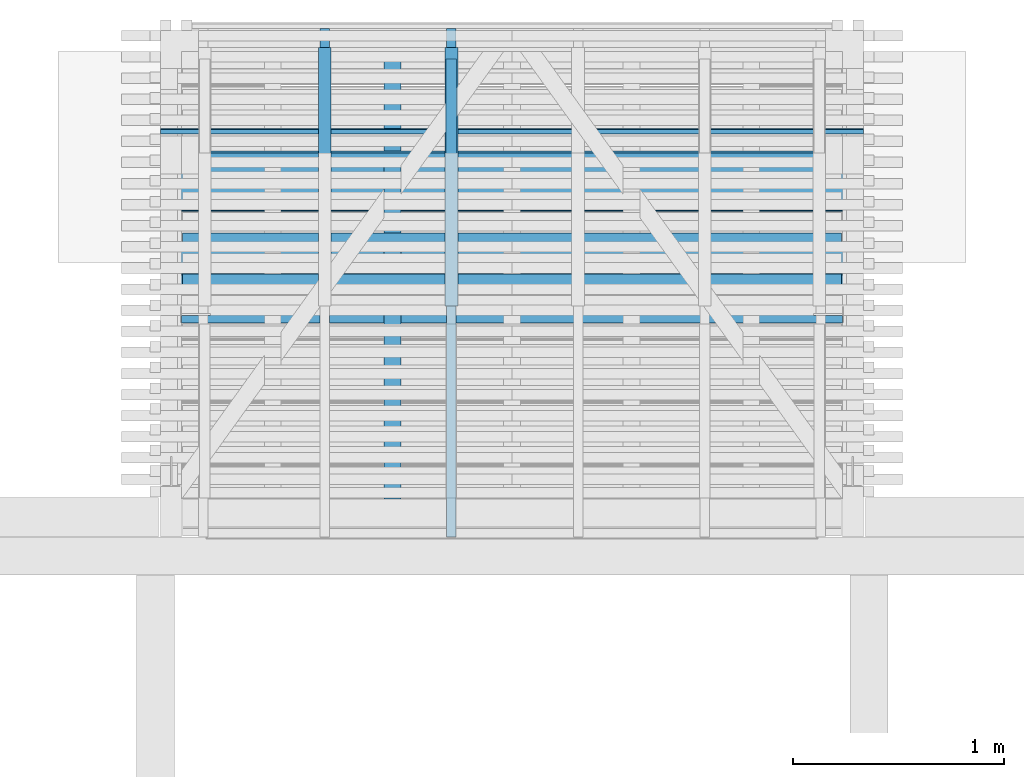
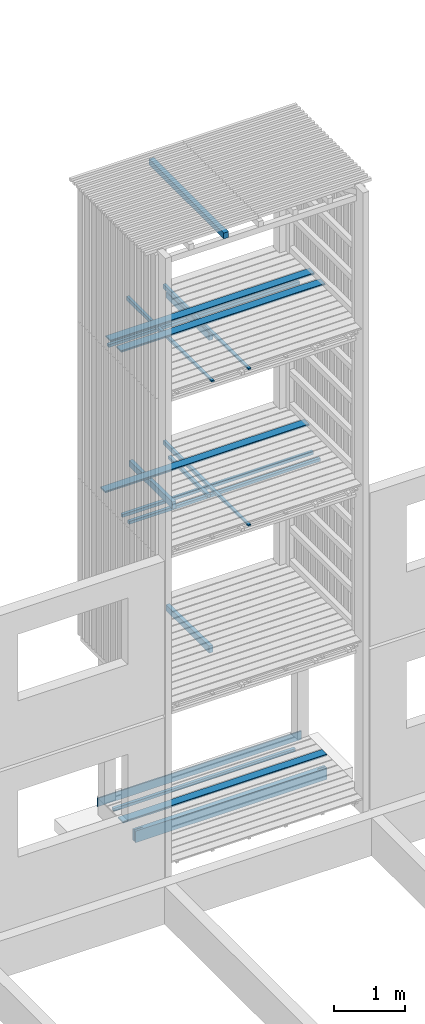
# One storey, part 21 of 182: 18 beams.
"""IFC2X3 building model written with IfcOpenShell, lengths in metres."""

from ifc_helpers import new_model, si_unit, frame, origin, place, context, project, spatial, faceted_brep, element, save


model = new_model("IFC2X3")

# Units and contexts
model_context = context("Model", 3, precision=1e-06, world=origin())
ifc_project = project(units=[si_unit("LENGTHUNIT", "METRE"), si_unit("PLANEANGLEUNIT", "RADIAN")], contexts=[model_context])

# Site, building, storey
site = spatial("IfcSite", under=ifc_project, CompositionType="ELEMENT")
building = spatial("IfcBuilding", under=site, CompositionType="ELEMENT")
storey = spatial("IfcBuildingStorey", under=building, Name="vs", CompositionType="ELEMENT", Elevation=-0.85)

# Beams
placement = place(None, origin())
beam_1_placement = place(placement, frame((4.692197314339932, 11.565077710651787, 8.00424999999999), z_axis=(0.0, 0.0, 1.0), x_axis=(0.0, 1.0, 0.0)))
element("IfcBeam", 1, at=beam_1_placement, inside=storey, Name="Solive", context=model_context, shape_type="Brep", body=[
    faceted_brep([(0.0, -0.029999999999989, -0.061849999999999), (1.225000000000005, -0.029999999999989, -0.061849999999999), (1.225000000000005, -0.029999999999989, 0.037349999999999), (0.0, -0.029999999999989, 0.061849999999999), (0.0, 0.029999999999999, -0.061849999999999), (1.225000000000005, 0.029999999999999, -0.061849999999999), (1.225000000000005, -0.029999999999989, -0.061849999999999), (0.0, -0.029999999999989, -0.061849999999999), (0.0, 0.029999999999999, 0.061850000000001), (0.0, 0.029999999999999, -0.061849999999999), (0.0, -0.029999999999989, -0.061849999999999), (0.0, -0.029999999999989, 0.061849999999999), (1.225000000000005, 0.029999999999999, -0.061849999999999), (0.0, 0.029999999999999, -0.061849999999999), (0.0, 0.029999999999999, 0.061850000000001), (1.225000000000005, 0.029999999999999, 0.037349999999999), (1.225000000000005, -0.029999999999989, 0.037349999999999), (1.225000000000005, -0.029999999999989, -0.061849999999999), (1.225000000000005, 0.029999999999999, -0.061849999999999), (1.225000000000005, 0.029999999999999, 0.037349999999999), (0.0, -0.029999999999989, 0.061849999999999), (1.225000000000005, -0.029999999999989, 0.037349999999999), (1.225000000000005, 0.029999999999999, 0.037349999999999), (0.0, 0.029999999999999, 0.061850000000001)], [[[0, 1, 2, 3]], [[4, 5, 6, 7]], [[8, 9, 10, 11]], [[12, 13, 14, 15]], [[16, 17, 18, 19]], [[20, 21, 22, 23]]]),
])
beam_2_placement = place(placement, frame((4.412530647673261, 10.650077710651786, 10.404999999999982), z_axis=(0.0, 0.0, 1.0), x_axis=(0.0, 1.0, 0.0)))
element("IfcBeam", 2, at=beam_2_placement, inside=storey, Name="Support bardage", context=model_context, shape_type="Brep", body=[
    faceted_brep([(2.120000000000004, -0.040000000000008, 0.050000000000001), (2.120000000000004, 0.03999999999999, 0.050000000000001), (3e-15, 0.03999999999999, 0.050000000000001), (3e-15, -0.040000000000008, 0.050000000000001), (3e-15, 0.03999999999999, 0.050000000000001), (2.120000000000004, 0.03999999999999, 0.050000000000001), (2.120000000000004, 0.03999999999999, -0.050000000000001), (3e-15, 0.03999999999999, -0.050000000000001), (2.120000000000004, 0.03999999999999, 0.050000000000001), (2.120000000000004, -0.040000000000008, 0.050000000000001), (2.120000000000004, -0.040000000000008, -0.050000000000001), (2.120000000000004, 0.03999999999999, -0.050000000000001), (2.120000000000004, -0.040000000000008, -0.050000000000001), (2.120000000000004, -0.040000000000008, 0.050000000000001), (3e-15, -0.040000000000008, 0.050000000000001), (3e-15, -0.040000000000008, -0.050000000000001), (3e-15, 0.03999999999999, -0.050000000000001), (2.120000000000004, 0.03999999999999, -0.050000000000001), (2.120000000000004, -0.040000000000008, -0.050000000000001), (3e-15, -0.040000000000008, -0.050000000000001), (3e-15, 0.03999999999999, 0.050000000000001), (3e-15, 0.03999999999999, -0.050000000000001), (3e-15, -0.040000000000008, -0.050000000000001), (3e-15, -0.040000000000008, 0.050000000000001)], [[[0, 1, 2, 3]], [[4, 5, 6, 7]], [[8, 9, 10, 11]], [[12, 13, 14, 15]], [[16, 17, 18, 19]], [[20, 21, 22, 23]]]),
])
beam_3_placement = place(placement, frame((4.692197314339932, 10.470077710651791, 5.384400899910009), z_axis=(0.0, 0.0, 1.0), x_axis=(0.0, 1.0, 0.0)))
element("IfcBeam", 3, at=beam_3_placement, inside=storey, Name="Calage", context=model_context, shape_type="Brep", body=[
    faceted_brep([(2.410000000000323, -0.022499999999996, -0.035599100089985), (0.0, -0.022499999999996, 0.012600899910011), (0.0, 0.022500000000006, 0.012600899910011), (2.410000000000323, 0.022500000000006, -0.035599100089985), (0.0, 0.022500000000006, 0.035599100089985), (0.0, 0.022500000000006, 0.012600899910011), (0.0, -0.022499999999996, 0.012600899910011), (0.0, -0.022499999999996, 0.035599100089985), (2.410000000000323, 0.022500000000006, -0.035599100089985), (0.0, 0.022500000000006, 0.012600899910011), (0.0, 0.022500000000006, 0.035599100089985), (2.410000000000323, 0.022500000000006, 0.035599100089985), (2.410000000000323, -0.022499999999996, 0.035599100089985), (0.0, -0.022499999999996, 0.035599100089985), (0.0, -0.022499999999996, 0.012600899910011), (2.410000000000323, -0.022499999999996, -0.035599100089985), (2.410000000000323, 0.022500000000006, 0.035599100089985), (0.0, 0.022500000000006, 0.035599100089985), (0.0, -0.022499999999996, 0.035599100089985), (2.410000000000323, -0.022499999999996, 0.035599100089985), (2.410000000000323, 0.022500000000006, -0.035599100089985), (2.410000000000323, 0.022500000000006, 0.035599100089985), (2.410000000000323, -0.022499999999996, 0.035599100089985), (2.410000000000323, -0.022499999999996, -0.035599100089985)], [[[0, 1, 2, 3]], [[4, 5, 6, 7]], [[8, 9, 10, 11]], [[12, 13, 14, 15]], [[16, 17, 18, 19]], [[20, 21, 22, 23]]]),
])
beam_4_placement = place(placement, frame((6.539197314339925, 11.692161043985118, 5.167399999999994), z_axis=(0.0, 0.0, 1.0), x_axis=(-1.0, 0.0, 0.0)))
element("IfcBeam", 4, at=beam_4_placement, inside=storey, Name="Bardage", context=model_context, shape_type="Brep", body=[
    faceted_brep([(3.120000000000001, 0.024999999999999, -0.025), (3.120000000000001, 0.024999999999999, 0.025), (3.120000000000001, -0.024999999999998, 0.025), (3.120000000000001, -0.024999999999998, -0.025), (-3e-15, -0.025000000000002, -0.025), (-3e-15, -0.025000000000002, 0.025), (-3e-15, 0.024999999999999, 0.025), (-3e-15, 0.024999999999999, -0.025), (-3e-15, 0.024999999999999, -0.025), (-3e-15, 0.024999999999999, 0.025), (3.120000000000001, 0.024999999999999, 0.025), (3.120000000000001, 0.024999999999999, -0.025), (-3e-15, 0.024999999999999, 0.025), (-3e-15, -0.025000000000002, 0.025), (3.120000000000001, -0.024999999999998, 0.025), (3.120000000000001, 0.024999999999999, 0.025), (-3e-15, -0.025000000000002, 0.025), (-3e-15, -0.025000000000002, -0.025), (3.120000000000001, -0.024999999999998, -0.025), (3.120000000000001, -0.024999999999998, 0.025), (-3e-15, -0.025000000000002, -0.025), (-3e-15, 0.024999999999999, -0.025), (3.120000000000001, 0.024999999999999, -0.025), (3.120000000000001, -0.024999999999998, -0.025)], [[[0, 1, 2, 3]], [[4, 5, 6, 7]], [[8, 9, 10, 11]], [[12, 13, 14, 15]], [[16, 17, 18, 19]], [[20, 21, 22, 23]]]),
])
beam_5_placement = place(placement, frame((6.644197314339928, 12.234577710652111, 5.433499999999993), z_axis=(0.0, 0.0, 1.0), x_axis=(-1.0, 0.0, 0.0)))
element("IfcBeam", 5, at=beam_5_placement, inside=storey, Name="Caillebotis", context=model_context, shape_type="Brep", body=[
    faceted_brep([(3.329999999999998, -0.072499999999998, -0.0135), (3.329999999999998, 0.072499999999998, -0.0135), (3.329999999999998, 0.072499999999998, 0.0085), (3.329999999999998, 0.067500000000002, 0.0135), (3.329999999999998, -0.067500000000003, 0.0135), (3.329999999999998, -0.072499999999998, 0.008500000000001), (0.0, -0.072500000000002, 0.008500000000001), (0.0, -0.067500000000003, 0.0135), (0.0, 0.067499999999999, 0.0135), (0.0, 0.072499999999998, 0.0085), (0.0, 0.072499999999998, -0.0135), (0.0, -0.072500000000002, -0.0135), (3.329999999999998, 0.072499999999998, 0.0085), (3.329999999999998, 0.072499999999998, -0.0135), (0.0, 0.072499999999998, -0.0135), (0.0, 0.072499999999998, 0.0085), (3.329999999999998, 0.067500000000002, 0.0135), (3.329999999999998, 0.072499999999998, 0.0085), (0.0, 0.072499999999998, 0.0085), (0.0, 0.067499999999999, 0.0135), (3.329999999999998, -0.067500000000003, 0.0135), (3.329999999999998, 0.067500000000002, 0.0135), (0.0, 0.067499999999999, 0.0135), (0.0, -0.067500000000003, 0.0135), (3.329999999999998, -0.072499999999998, 0.008500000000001), (3.329999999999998, -0.067500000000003, 0.0135), (0.0, -0.067500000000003, 0.0135), (0.0, -0.072500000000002, 0.008500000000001), (3.329999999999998, -0.072499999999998, -0.0135), (3.329999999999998, -0.072499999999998, 0.008500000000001), (0.0, -0.072500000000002, 0.008500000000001), (0.0, -0.072500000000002, -0.0135), (0.0, 0.072499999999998, -0.0135), (3.329999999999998, 0.072499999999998, -0.0135), (3.329999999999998, -0.072499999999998, -0.0135), (0.0, -0.072500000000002, -0.0135)], [[[0, 1, 2, 3, 4, 5]], [[6, 7, 8, 9, 10, 11]], [[12, 13, 14, 15]], [[16, 17, 18, 19]], [[20, 21, 22, 23]], [[24, 25, 26, 27]], [[28, 29, 30, 31]], [[32, 33, 34, 35]]]),
])
beam_6_placement = place(placement, frame((6.644197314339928, 11.784577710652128, 8.13349999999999), z_axis=(0.0, 0.0, 1.0), x_axis=(-1.0, -8e-15, 0.0)))
element("IfcBeam", 6, at=beam_6_placement, inside=storey, Name="Caillebotis", context=model_context, shape_type="Brep", body=[
    faceted_brep([(3.329999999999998, -0.072500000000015, -0.013500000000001), (3.329999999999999, 0.072499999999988, -0.013500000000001), (3.329999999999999, 0.072499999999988, 0.008499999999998), (3.329999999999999, 0.067499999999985, 0.013499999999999), (3.329999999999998, -0.067500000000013, 0.013499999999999), (3.329999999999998, -0.072500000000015, 0.0085), (-1e-15, -0.072499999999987, 0.0085), (-1e-15, -0.067499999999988, 0.013499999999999), (1e-15, 0.067500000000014, 0.013499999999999), (1e-15, 0.072500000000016, 0.008499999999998), (1e-15, 0.072500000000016, -0.013500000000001), (-1e-15, -0.072499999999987, -0.013500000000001), (3.329999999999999, 0.072499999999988, 0.008499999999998), (3.329999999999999, 0.072499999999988, -0.013500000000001), (1e-15, 0.072500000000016, -0.013500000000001), (1e-15, 0.072500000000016, 0.008499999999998), (3.329999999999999, 0.067499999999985, 0.013499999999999), (3.329999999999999, 0.072499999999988, 0.008499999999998), (1e-15, 0.072500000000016, 0.008499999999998), (1e-15, 0.067500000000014, 0.013499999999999), (3.329999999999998, -0.067500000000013, 0.013499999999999), (3.329999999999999, 0.067499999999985, 0.013499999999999), (1e-15, 0.067500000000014, 0.013499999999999), (-1e-15, -0.067499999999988, 0.013499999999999), (3.329999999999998, -0.072500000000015, 0.0085), (3.329999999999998, -0.067500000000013, 0.013499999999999), (-1e-15, -0.067499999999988, 0.013499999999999), (-1e-15, -0.072499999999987, 0.0085), (3.329999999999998, -0.072500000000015, -0.013500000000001), (3.329999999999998, -0.072500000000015, 0.0085), (-1e-15, -0.072499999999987, 0.0085), (-1e-15, -0.072499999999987, -0.013500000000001), (1e-15, 0.072500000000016, -0.013500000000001), (3.329999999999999, 0.072499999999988, -0.013500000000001), (3.329999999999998, -0.072500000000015, -0.013500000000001), (-1e-15, -0.072499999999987, -0.013500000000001)], [[[0, 1, 2, 3, 4, 5]], [[6, 7, 8, 9, 10, 11]], [[12, 13, 14, 15]], [[16, 17, 18, 19]], [[20, 21, 22, 23]], [[24, 25, 26, 27]], [[28, 29, 30, 31]], [[32, 33, 34, 35]]]),
])
beam_7_placement = place(placement, frame((6.539197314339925, 12.274661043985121, 7.86739999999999), z_axis=(0.0, 0.0, 1.0), x_axis=(-1.0, 0.0, 0.0)))
element("IfcBeam", 7, at=beam_7_placement, inside=storey, Name="Bardage", context=model_context, shape_type="Brep", body=[
    faceted_brep([(3.119999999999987, 0.024999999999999, 0.025000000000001), (3.119999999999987, -0.024999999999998, 0.025000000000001), (3.119999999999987, -0.024999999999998, -0.024999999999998), (3.119999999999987, 0.024999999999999, -0.024999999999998), (-3e-15, -0.025000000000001, 0.025000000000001), (-3e-15, 0.024999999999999, 0.025000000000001), (-3e-15, 0.024999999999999, -0.024999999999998), (-3e-15, -0.025000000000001, -0.024999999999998), (3.119999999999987, 0.024999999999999, -0.024999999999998), (3.119999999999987, -0.024999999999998, -0.024999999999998), (-3e-15, -0.025000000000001, -0.024999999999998), (-3e-15, 0.024999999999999, -0.024999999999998), (-3e-15, -0.025000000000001, -0.024999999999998), (3.119999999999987, -0.024999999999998, -0.024999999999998), (3.119999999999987, -0.024999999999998, 0.025000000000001), (-3e-15, -0.025000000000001, 0.025000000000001), (-3e-15, -0.025000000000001, 0.025000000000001), (3.119999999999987, -0.024999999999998, 0.025000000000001), (3.119999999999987, 0.024999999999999, 0.025000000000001), (-3e-15, 0.024999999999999, 0.025000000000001), (-3e-15, 0.024999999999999, 0.025000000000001), (3.119999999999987, 0.024999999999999, 0.025000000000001), (3.119999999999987, 0.024999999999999, -0.024999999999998), (-3e-15, 0.024999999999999, -0.024999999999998)], [[[0, 1, 2, 3]], [[4, 5, 6, 7]], [[8, 9, 10, 11]], [[12, 13, 14, 15]], [[16, 17, 18, 19]], [[20, 21, 22, 23]]]),
])
beam_8_placement = place(placement, frame((4.092197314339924, 11.565077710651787, 5.304249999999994), z_axis=(0.0, 0.0, 1.0), x_axis=(0.0, 1.0, 0.0)))
element("IfcBeam", 8, at=beam_8_placement, inside=storey, Name="Solive", context=model_context, shape_type="Brep", body=[
    faceted_brep([(0.0, -0.030000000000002, -0.061849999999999), (1.225000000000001, -0.030000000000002, -0.061849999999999), (1.225000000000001, -0.030000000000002, 0.03735), (0.0, -0.030000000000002, 0.06185), (0.0, 0.030000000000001, 0.061850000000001), (0.0, 0.030000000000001, -0.061849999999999), (0.0, -0.030000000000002, -0.061849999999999), (0.0, -0.030000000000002, 0.06185), (0.0, -0.030000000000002, -0.061849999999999), (0.0, 0.030000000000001, -0.061849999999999), (1.225000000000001, 0.030000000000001, -0.061849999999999), (1.225000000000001, -0.030000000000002, -0.061849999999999), (1.225000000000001, 0.030000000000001, -0.061849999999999), (0.0, 0.030000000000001, -0.061849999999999), (0.0, 0.030000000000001, 0.061850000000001), (1.225000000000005, 0.030000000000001, 0.03735), (1.225000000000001, -0.030000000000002, 0.03735), (1.225000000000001, -0.030000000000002, -0.061849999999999), (1.225000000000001, 0.030000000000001, -0.061849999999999), (1.225000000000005, 0.030000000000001, 0.03735), (0.0, -0.030000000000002, 0.06185), (1.225000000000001, -0.030000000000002, 0.03735), (1.225000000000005, 0.030000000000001, 0.03735), (0.0, 0.030000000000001, 0.061850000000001)], [[[0, 1, 2, 3]], [[4, 5, 6, 7]], [[8, 9, 10, 11]], [[12, 13, 14, 15]], [[16, 17, 18, 19]], [[20, 21, 22, 23]]]),
])
beam_9_placement = place(placement, frame((4.692197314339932, 12.735077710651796, 5.217399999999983), z_axis=(0.0, 0.0, 1.0), x_axis=(0.0, -1.0, 0.0)))
element("IfcBeam", 9, at=beam_9_placement, inside=storey, Name="Calage", context=model_context, shape_type="Brep", body=[
    faceted_brep([(1.115000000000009, 0.024999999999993, 0.024999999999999), (1.115000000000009, -0.025000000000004, 0.024999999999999), (1.115000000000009, -0.025000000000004, -0.025), (1.115000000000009, 0.024999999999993, -0.025), (0.0, -0.025000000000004, -0.025), (0.0, -0.025000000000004, 0.024999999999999), (0.0, 0.024999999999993, 0.024999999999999), (0.0, 0.024999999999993, -0.025), (1.115000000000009, -0.025000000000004, 0.024999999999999), (1.115000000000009, 0.024999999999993, 0.024999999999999), (0.0, 0.024999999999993, 0.024999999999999), (0.0, -0.025000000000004, 0.024999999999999), (1.115000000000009, -0.025000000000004, -0.025), (1.115000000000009, -0.025000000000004, 0.024999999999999), (0.0, -0.025000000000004, 0.024999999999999), (0.0, -0.025000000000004, -0.025), (1.115000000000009, 0.024999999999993, -0.025), (1.115000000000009, -0.025000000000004, -0.025), (0.0, -0.025000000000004, -0.025), (0.0, 0.024999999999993, -0.025), (0.0, 0.024999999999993, 0.024999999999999), (1.115000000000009, 0.024999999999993, 0.024999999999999), (1.115000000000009, 0.024999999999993, -0.025), (0.0, 0.024999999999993, -0.025)], [[[0, 1, 2, 3]], [[4, 5, 6, 7]], [[8, 9, 10, 11]], [[12, 13, 14, 15]], [[16, 17, 18, 19]], [[20, 21, 22, 23]]]),
])
beam_10_placement = place(placement, frame((6.644197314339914, 11.734577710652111, 0.033500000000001), z_axis=(0.0, 0.0, 1.0), x_axis=(-1.0, 0.0, 0.0)))
element("IfcBeam", 10, at=beam_10_placement, inside=storey, Name="Caillebotis", context=model_context, shape_type="Brep", body=[
    faceted_brep([(3.329999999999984, -0.067500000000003, 0.0135), (3.329999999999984, -0.072499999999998, 0.008500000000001), (3.329999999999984, -0.072499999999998, -0.013500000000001), (3.329999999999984, 0.072499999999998, -0.013500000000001), (3.329999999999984, 0.072499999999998, 0.0085), (3.329999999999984, 0.067500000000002, 0.0135), (0.0, 0.067499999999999, 0.0135), (0.0, 0.072499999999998, 0.0085), (0.0, 0.072499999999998, -0.013500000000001), (0.0, -0.072500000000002, -0.013500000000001), (0.0, -0.072500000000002, 0.008500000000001), (0.0, -0.067500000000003, 0.0135), (3.329999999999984, -0.072499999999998, -0.013500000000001), (3.329999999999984, -0.072499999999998, 0.008500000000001), (0.0, -0.072500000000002, 0.008500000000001), (0.0, -0.072500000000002, -0.013500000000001), (3.329999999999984, 0.072499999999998, -0.013500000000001), (3.329999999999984, -0.072499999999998, -0.013500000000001), (0.0, -0.072500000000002, -0.013500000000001), (0.0, 0.072499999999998, -0.013500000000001), (3.329999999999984, 0.072499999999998, 0.0085), (3.329999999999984, 0.072499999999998, -0.013500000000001), (0.0, 0.072499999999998, -0.013500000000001), (0.0, 0.072499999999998, 0.0085), (3.329999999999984, 0.067500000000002, 0.0135), (3.329999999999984, 0.072499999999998, 0.0085), (0.0, 0.072499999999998, 0.0085), (0.0, 0.067499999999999, 0.0135), (3.329999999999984, -0.067500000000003, 0.0135), (3.329999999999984, 0.067500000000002, 0.0135), (0.0, 0.067499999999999, 0.0135), (0.0, -0.067500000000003, 0.0135), (0.0, -0.072500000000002, 0.008500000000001), (3.329999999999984, -0.072499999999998, 0.008500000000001), (3.329999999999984, -0.067500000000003, 0.0135), (0.0, -0.067500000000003, 0.0135)], [[[0, 1, 2, 3, 4, 5]], [[6, 7, 8, 9, 10, 11]], [[12, 13, 14, 15]], [[16, 17, 18, 19]], [[20, 21, 22, 23]], [[24, 25, 26, 27]], [[28, 29, 30, 31]], [[32, 33, 34, 35]]]),
])
beam_11_placement = place(placement, frame((3.314197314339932, 12.39357771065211, -0.0575), z_axis=(0.0, 0.0, -1.0), x_axis=(1.0, 0.0, 0.0)))
element("IfcBeam", 11, at=beam_11_placement, inside=storey, Name="Caillebotis", context=model_context, shape_type="Brep", body=[
    faceted_brep([(2e-15, -0.008499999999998, -0.0725), (2e-15, -0.0135, -0.067500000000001), (2e-15, -0.0135, 0.067500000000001), (2e-15, -0.008500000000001, 0.0725), (2e-15, 0.013500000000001, 0.0725), (2e-15, 0.013500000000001, -0.0725), (3.329999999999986, 0.013499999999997, -0.0725), (3.329999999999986, 0.013499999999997, 0.0725), (3.329999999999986, -0.008500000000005, 0.0725), (3.329999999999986, -0.0135, 0.067500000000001), (3.329999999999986, -0.0135, -0.067500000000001), (3.329999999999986, -0.008500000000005, -0.0725), (2e-15, -0.0135, 0.067500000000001), (2e-15, -0.0135, -0.067500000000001), (3.329999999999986, -0.0135, -0.067500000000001), (3.329999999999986, -0.0135, 0.067500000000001), (2e-15, -0.008500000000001, 0.0725), (2e-15, -0.0135, 0.067500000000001), (3.329999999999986, -0.0135, 0.067500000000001), (3.329999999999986, -0.008500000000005, 0.0725), (2e-15, 0.013500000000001, 0.0725), (2e-15, -0.008500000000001, 0.0725), (3.329999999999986, -0.008500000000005, 0.0725), (3.329999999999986, 0.013499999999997, 0.0725), (2e-15, 0.013500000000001, -0.0725), (2e-15, 0.013500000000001, 0.0725), (3.329999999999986, 0.013499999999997, 0.0725), (3.329999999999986, 0.013499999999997, -0.0725), (2e-15, -0.008499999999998, -0.0725), (2e-15, 0.013500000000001, -0.0725), (3.329999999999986, 0.013499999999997, -0.0725), (3.329999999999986, -0.008500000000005, -0.0725), (3.329999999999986, -0.0135, -0.067500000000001), (2e-15, -0.0135, -0.067500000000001), (2e-15, -0.008499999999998, -0.0725), (3.329999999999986, -0.008500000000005, -0.0725)], [[[0, 1, 2, 3, 4, 5]], [[6, 7, 8, 9, 10, 11]], [[12, 13, 14, 15]], [[16, 17, 18, 19]], [[20, 21, 22, 23]], [[24, 25, 26, 27]], [[28, 29, 30, 31]], [[32, 33, 34, 35]]]),
])
beam_12_placement = place(placement, frame((6.54419731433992, 11.525077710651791, -0.143899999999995), z_axis=(0.0, 0.0, 1.0), x_axis=(-1.0, -2e-15, 0.0)))
element("IfcBeam", 12, at=beam_12_placement, inside=storey, Name="Sommier", context=model_context, shape_type="Brep", body=[
    faceted_brep([(0.137000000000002, -0.003999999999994, 0.1), (0.137000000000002, -0.003999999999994, -0.1), (1e-15, -0.003999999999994, -0.1), (1e-15, -0.003999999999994, 0.1), (0.137000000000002, 0.004000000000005, -0.1), (0.137000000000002, -0.003999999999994, -0.1), (0.137000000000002, -0.003999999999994, 0.1), (0.137000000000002, 0.004000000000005, 0.1), (0.137000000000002, 0.004000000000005, -0.1), (0.137000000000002, 0.004000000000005, 0.1), (1e-15, 0.004000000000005, 0.1), (1e-15, 0.004000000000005, -0.1), (1e-15, -0.003999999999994, 0.1), (1e-15, -0.003999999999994, -0.1), (1e-15, -0.039999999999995, -0.1), (1e-15, -0.039999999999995, 0.1), (1e-15, 0.040000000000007, 0.1), (1e-15, 0.040000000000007, -0.1), (1e-15, 0.004000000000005, -0.1), (1e-15, 0.004000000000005, 0.1), (3.129999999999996, 0.004000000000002, 0.1), (2.992999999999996, 0.004000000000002, 0.1), (2.992999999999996, 0.004000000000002, -0.1), (3.129999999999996, 0.004000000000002, -0.1), (2.992999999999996, -0.004000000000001, 0.1), (2.992999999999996, -0.004000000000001, -0.1), (2.992999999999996, 0.004000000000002, -0.1), (2.992999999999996, 0.004000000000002, 0.1), (3.129999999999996, -0.004000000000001, -0.1), (2.992999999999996, -0.004000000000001, -0.1), (2.992999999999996, -0.004000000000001, 0.1), (3.129999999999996, -0.004000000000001, 0.1), (3.129999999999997, 0.04, 0.1), (3.129999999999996, 0.004000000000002, 0.1), (3.129999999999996, 0.004000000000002, -0.1), (3.129999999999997, 0.04, -0.1), (3.129999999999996, -0.040000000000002, 0.1), (3.129999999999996, -0.040000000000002, -0.1), (3.129999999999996, -0.004000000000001, -0.1), (3.129999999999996, -0.004000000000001, 0.1), (1e-15, -0.039999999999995, -0.1), (1e-15, -0.003999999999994, -0.1), (0.137000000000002, -0.003999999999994, -0.1), (0.137000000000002, 0.004000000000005, -0.1), (1e-15, 0.004000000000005, -0.1), (1e-15, 0.040000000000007, -0.1), (3.129999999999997, 0.04, -0.1), (3.129999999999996, 0.004000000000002, -0.1), (2.992999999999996, 0.004000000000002, -0.1), (2.992999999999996, -0.004000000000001, -0.1), (3.129999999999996, -0.004000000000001, -0.1), (3.129999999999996, -0.040000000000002, -0.1), (2.992999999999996, 0.004000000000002, 0.1), (3.129999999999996, 0.004000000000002, 0.1), (3.129999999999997, 0.04, 0.1), (1e-15, 0.040000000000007, 0.1), (1e-15, 0.004000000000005, 0.1), (0.137000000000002, 0.004000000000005, 0.1), (0.137000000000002, -0.003999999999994, 0.1), (1e-15, -0.003999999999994, 0.1), (1e-15, -0.039999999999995, 0.1), (3.129999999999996, -0.040000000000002, 0.1), (3.129999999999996, -0.004000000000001, 0.1), (2.992999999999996, -0.004000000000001, 0.1), (1e-15, 0.040000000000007, 0.1), (3.129999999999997, 0.04, 0.1), (3.129999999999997, 0.04, -0.1), (1e-15, 0.040000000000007, -0.1), (1e-15, -0.039999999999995, -0.1), (3.129999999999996, -0.040000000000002, -0.1), (3.129999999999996, -0.040000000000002, 0.1), (1e-15, -0.039999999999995, 0.1)], [[[0, 1, 2, 3]], [[4, 5, 6, 7]], [[8, 9, 10, 11]], [[12, 13, 14, 15]], [[16, 17, 18, 19]], [[20, 21, 22, 23]], [[24, 25, 26, 27]], [[28, 29, 30, 31]], [[32, 33, 34, 35]], [[36, 37, 38, 39]], [[40, 41, 42, 43, 44, 45, 46, 47, 48, 49, 50, 51]], [[52, 53, 54, 55, 56, 57, 58, 59, 60, 61, 62, 63]], [[64, 65, 66, 67]], [[68, 69, 70, 71]]]),
])
beam_13_placement = place(placement, frame((6.539197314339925, 11.886327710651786, 5.167399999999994), z_axis=(0.0, 0.0, 1.0), x_axis=(-1.0, 0.0, 0.0)))
element("IfcBeam", 13, at=beam_13_placement, inside=storey, Name="Bardage", context=model_context, shape_type="Brep", body=[
    faceted_brep([(3.120000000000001, 0.024999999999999, -0.024999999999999), (3.120000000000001, 0.024999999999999, 0.025), (3.120000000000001, -0.024999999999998, 0.025), (3.120000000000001, -0.024999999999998, -0.024999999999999), (-3e-15, -0.025000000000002, -0.024999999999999), (-3e-15, -0.025000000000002, 0.025), (-3e-15, 0.024999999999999, 0.025), (-3e-15, 0.024999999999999, -0.024999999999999), (-3e-15, 0.024999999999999, -0.024999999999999), (-3e-15, 0.024999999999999, 0.025), (3.120000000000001, 0.024999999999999, 0.025), (3.120000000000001, 0.024999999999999, -0.024999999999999), (-3e-15, 0.024999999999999, 0.025), (-3e-15, -0.025000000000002, 0.025), (3.120000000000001, -0.024999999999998, 0.025), (3.120000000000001, 0.024999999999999, 0.025), (-3e-15, -0.025000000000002, 0.025), (-3e-15, -0.025000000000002, -0.024999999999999), (3.120000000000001, -0.024999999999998, -0.024999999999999), (3.120000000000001, -0.024999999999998, 0.025), (-3e-15, -0.025000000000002, -0.024999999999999), (-3e-15, 0.024999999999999, -0.024999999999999), (3.120000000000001, 0.024999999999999, -0.024999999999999), (3.120000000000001, -0.024999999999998, -0.024999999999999)], [[[0, 1, 2, 3]], [[4, 5, 6, 7]], [[8, 9, 10, 11]], [[12, 13, 14, 15]], [[16, 17, 18, 19]], [[20, 21, 22, 23]]]),
])
beam_14_placement = place(placement, frame((4.692197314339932, 10.470077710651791, 8.084400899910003), z_axis=(0.0, 0.0, 1.0), x_axis=(0.0, 1.0, 0.0)))
element("IfcBeam", 14, at=beam_14_placement, inside=storey, Name="Calage", context=model_context, shape_type="Brep", body=[
    faceted_brep([(2.410000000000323, -0.022499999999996, -0.035599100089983), (0.0, -0.022499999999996, 0.012600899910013), (0.0, 0.022500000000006, 0.012600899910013), (2.410000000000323, 0.022500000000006, -0.035599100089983), (0.0, 0.022500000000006, 0.035599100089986), (0.0, 0.022500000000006, 0.012600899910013), (0.0, -0.022499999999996, 0.012600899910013), (0.0, -0.022499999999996, 0.035599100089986), (2.410000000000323, 0.022500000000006, -0.035599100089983), (0.0, 0.022500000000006, 0.012600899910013), (0.0, 0.022500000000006, 0.035599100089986), (2.410000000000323, 0.022500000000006, 0.035599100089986), (2.410000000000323, -0.022499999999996, 0.035599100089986), (0.0, -0.022499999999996, 0.035599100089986), (0.0, -0.022499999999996, 0.012600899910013), (2.410000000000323, -0.022499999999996, -0.035599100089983), (2.410000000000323, 0.022500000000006, 0.035599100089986), (0.0, 0.022500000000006, 0.035599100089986), (0.0, -0.022499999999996, 0.035599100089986), (2.410000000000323, -0.022499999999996, 0.035599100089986), (2.410000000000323, 0.022500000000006, -0.035599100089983), (2.410000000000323, 0.022500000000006, 0.035599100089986), (2.410000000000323, -0.022499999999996, 0.035599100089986), (2.410000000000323, -0.022499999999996, -0.035599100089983)], [[[0, 1, 2, 3]], [[4, 5, 6, 7]], [[8, 9, 10, 11]], [[12, 13, 14, 15]], [[16, 17, 18, 19]], [[20, 21, 22, 23]]]),
])
beam_15_placement = place(placement, frame((4.692197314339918, 11.565077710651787, 2.604249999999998), z_axis=(0.0, 0.0, 1.0), x_axis=(1.2e-14, 1.0, 0.0)))
element("IfcBeam", 15, at=beam_15_placement, inside=storey, Name="Solive", context=model_context, shape_type="Brep", body=[
    faceted_brep([(0.0, -0.030000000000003, -0.06185), (1.225000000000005, -0.029999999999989, -0.06185), (1.225000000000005, -0.029999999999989, 0.037349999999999), (0.0, -0.030000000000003, 0.06185), (-1e-15, 0.029999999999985, -0.06185), (1.225000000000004, 0.029999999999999, -0.06185), (1.225000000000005, -0.029999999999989, -0.06185), (0.0, -0.030000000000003, -0.06185), (-1e-15, 0.029999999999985, 0.06185), (-1e-15, 0.029999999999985, -0.06185), (0.0, -0.030000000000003, -0.06185), (0.0, -0.030000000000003, 0.06185), (1.225000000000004, 0.029999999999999, -0.06185), (-1e-15, 0.029999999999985, -0.06185), (-1e-15, 0.029999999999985, 0.06185), (1.225000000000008, 0.029999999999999, 0.037349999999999), (1.225000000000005, -0.029999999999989, 0.037349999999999), (1.225000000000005, -0.029999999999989, -0.06185), (1.225000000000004, 0.029999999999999, -0.06185), (1.225000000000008, 0.029999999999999, 0.037349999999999), (0.0, -0.030000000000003, 0.06185), (1.225000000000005, -0.029999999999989, 0.037349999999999), (1.225000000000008, 0.029999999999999, 0.037349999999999), (-1e-15, 0.029999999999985, 0.06185)], [[[0, 1, 2, 3]], [[4, 5, 6, 7]], [[8, 9, 10, 11]], [[12, 13, 14, 15]], [[16, 17, 18, 19]], [[20, 21, 22, 23]]]),
])
beam_16_placement = place(placement, frame((4.092197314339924, 10.470077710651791, 8.084400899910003), z_axis=(0.0, 0.0, 1.0), x_axis=(0.0, 1.0, 0.0)))
element("IfcBeam", 16, at=beam_16_placement, inside=storey, Name="Calage", context=model_context, shape_type="Brep", body=[
    faceted_brep([(2.41000000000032, -0.022500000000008, -0.035599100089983), (0.0, -0.022500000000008, 0.012600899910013), (0.0, 0.022499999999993, 0.012600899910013), (2.41000000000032, 0.022499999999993, -0.035599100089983), (0.0, 0.022499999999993, 0.035599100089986), (0.0, 0.022499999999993, 0.012600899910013), (0.0, -0.022500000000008, 0.012600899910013), (0.0, -0.022500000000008, 0.035599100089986), (2.41000000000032, 0.022499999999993, -0.035599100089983), (0.0, 0.022499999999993, 0.012600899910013), (0.0, 0.022499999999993, 0.035599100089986), (2.41000000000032, 0.022499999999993, 0.035599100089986), (2.41000000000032, -0.022500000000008, 0.035599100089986), (0.0, -0.022500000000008, 0.035599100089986), (0.0, -0.022500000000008, 0.012600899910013), (2.41000000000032, -0.022500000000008, -0.035599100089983), (2.41000000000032, 0.022499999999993, 0.035599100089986), (0.0, 0.022499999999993, 0.035599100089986), (0.0, -0.022500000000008, 0.035599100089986), (2.41000000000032, -0.022500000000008, 0.035599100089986), (2.41000000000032, 0.022499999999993, -0.035599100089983), (2.41000000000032, 0.022499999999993, 0.035599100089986), (2.41000000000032, -0.022500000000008, 0.035599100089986), (2.41000000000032, -0.022500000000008, -0.035599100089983)], [[[0, 1, 2, 3]], [[4, 5, 6, 7]], [[8, 9, 10, 11]], [[12, 13, 14, 15]], [[16, 17, 18, 19]], [[20, 21, 22, 23]]]),
])
beam_17_placement = place(placement, frame((3.494197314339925, 12.265077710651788, -0.164999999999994), z_axis=(0.0, 0.0, 1.0), x_axis=(1.0, 0.0, 0.0)))
element("IfcBeam", 17, at=beam_17_placement, inside=storey, Name="Ligneul", context=model_context, shape_type="Brep", body=[
    faceted_brep([(2e-15, -0.024999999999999, 0.025), (2e-15, -0.024999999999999, -0.025), (2.970000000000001, -0.024999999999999, -0.025), (2.970000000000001, -0.024999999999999, 0.025), (2e-15, 0.024999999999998, 0.025), (2e-15, -0.024999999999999, 0.025), (2.970000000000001, -0.024999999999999, 0.025), (2.970000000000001, 0.025000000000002, 0.025), (2e-15, -0.024999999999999, 0.025), (2e-15, 0.024999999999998, 0.025), (2e-15, 0.024999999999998, -0.025), (2e-15, -0.024999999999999, -0.025), (2e-15, 0.024999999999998, -0.025), (2e-15, 0.024999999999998, 0.025), (2.970000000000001, 0.025000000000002, 0.025), (2.970000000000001, 0.025000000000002, -0.025), (2.970000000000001, -0.024999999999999, -0.025), (2e-15, -0.024999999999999, -0.025), (2e-15, 0.024999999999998, -0.025), (2.970000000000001, 0.025000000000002, -0.025), (2.970000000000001, -0.024999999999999, 0.025), (2.970000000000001, -0.024999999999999, -0.025), (2.970000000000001, 0.025000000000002, -0.025), (2.970000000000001, 0.025000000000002, 0.025)], [[[0, 1, 2, 3]], [[4, 5, 6, 7]], [[8, 9, 10, 11]], [[12, 13, 14, 15]], [[16, 17, 18, 19]], [[20, 21, 22, 23]]]),
])
beam_18_placement = place(placement, frame((6.644197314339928, 12.084577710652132, 8.133499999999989), z_axis=(0.0, 0.0, 1.0), x_axis=(-1.0, -1e-14, 0.0)))
element("IfcBeam", 18, at=beam_18_placement, inside=storey, Name="Caillebotis", context=model_context, shape_type="Brep", body=[
    faceted_brep([(3.329999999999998, -0.072500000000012, -0.013499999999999), (3.329999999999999, 0.072499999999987, -0.013499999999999), (3.329999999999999, 0.072499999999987, 0.0085), (3.329999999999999, 0.067499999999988, 0.013500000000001), (3.329999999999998, -0.067500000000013, 0.013500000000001), (3.329999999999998, -0.072500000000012, 0.008500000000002), (-1e-15, -0.07249999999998, 0.008500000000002), (-1e-15, -0.067499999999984, 0.013500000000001), (1e-15, 0.067500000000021, 0.013500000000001), (1e-15, 0.072500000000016, 0.0085), (1e-15, 0.072500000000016, -0.013499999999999), (-1e-15, -0.07249999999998, -0.013499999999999), (3.329999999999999, 0.072499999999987, 0.0085), (3.329999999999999, 0.072499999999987, -0.013499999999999), (1e-15, 0.072500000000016, -0.013499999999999), (1e-15, 0.072500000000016, 0.0085), (3.329999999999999, 0.067499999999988, 0.013500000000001), (3.329999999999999, 0.072499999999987, 0.0085), (1e-15, 0.072500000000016, 0.0085), (1e-15, 0.067500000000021, 0.013500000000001), (3.329999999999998, -0.067500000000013, 0.013500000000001), (3.329999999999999, 0.067499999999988, 0.013500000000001), (1e-15, 0.067500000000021, 0.013500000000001), (-1e-15, -0.067499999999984, 0.013500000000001), (3.329999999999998, -0.072500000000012, 0.008500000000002), (3.329999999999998, -0.067500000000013, 0.013500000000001), (-1e-15, -0.067499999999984, 0.013500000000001), (-1e-15, -0.07249999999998, 0.008500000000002), (3.329999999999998, -0.072500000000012, -0.013499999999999), (3.329999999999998, -0.072500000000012, 0.008500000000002), (-1e-15, -0.07249999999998, 0.008500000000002), (-1e-15, -0.07249999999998, -0.013499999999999), (1e-15, 0.072500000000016, -0.013499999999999), (3.329999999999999, 0.072499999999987, -0.013499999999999), (3.329999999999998, -0.072500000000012, -0.013499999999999), (-1e-15, -0.07249999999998, -0.013499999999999)], [[[0, 1, 2, 3, 4, 5]], [[6, 7, 8, 9, 10, 11]], [[12, 13, 14, 15]], [[16, 17, 18, 19]], [[20, 21, 22, 23]], [[24, 25, 26, 27]], [[28, 29, 30, 31]], [[32, 33, 34, 35]]]),
])

save(model, "model.ifc")
